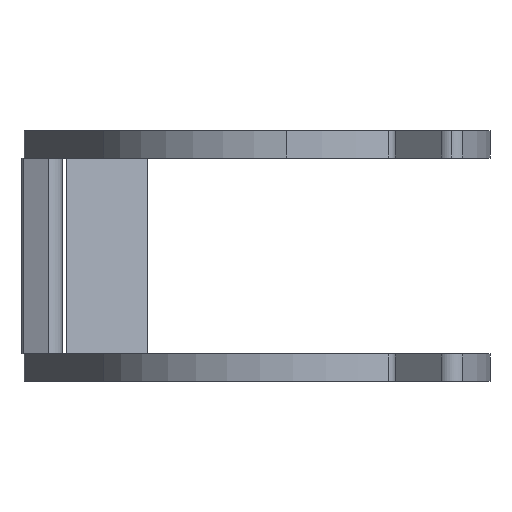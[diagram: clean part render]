
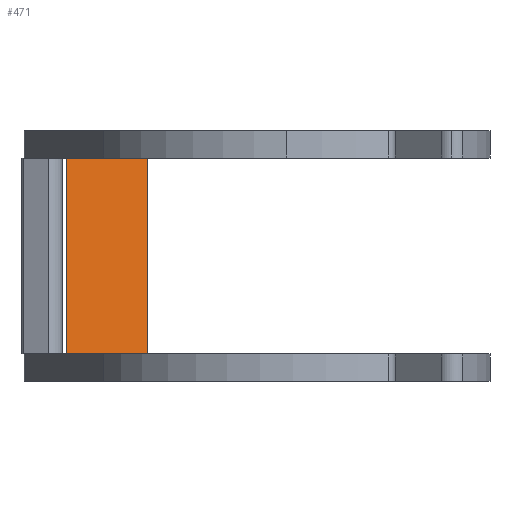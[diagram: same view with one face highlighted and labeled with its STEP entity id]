
A CAD part, left-side view. The second image highlights one B-rep face of the part: STEP entity #471.
In plain terms, the highlighted planar face has unit normal (-0.956, -0.292, 0).
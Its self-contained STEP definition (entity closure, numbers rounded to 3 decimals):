
#401 = LINE ( 'NONE', #6889, #6104 ) ;
#471 = ADVANCED_FACE ( 'NONE', ( #4999 ), #3157, .F. ) ;
#518 = VERTEX_POINT ( 'NONE', #4433 ) ;
#577 = ORIENTED_EDGE ( 'NONE', *, *, #5120, .T. ) ;
#604 = DIRECTION ( 'NONE',  ( -0.292, 0.956, 0. ) ) ;
#866 = ORIENTED_EDGE ( 'NONE', *, *, #1025, .T. ) ;
#1025 = EDGE_CURVE ( 'NONE', #3019, #518, #3514, .T. ) ;
#1259 = EDGE_CURVE ( 'NONE', #6435, #3303, #6900, .T. ) ;
#1303 = VECTOR ( 'NONE', #2569, 1000. ) ;
#1919 = CARTESIAN_POINT ( 'NONE',  ( 60.2, 65., 0. ) ) ;
#2262 = DIRECTION ( 'NONE',  ( -0.292, 0.956, 0. ) ) ;
#2391 = CARTESIAN_POINT ( 'NONE',  ( 67.471, 41.218, -57.8 ) ) ;
#2465 = DIRECTION ( 'NONE',  ( -0.292, 0.956, 0. ) ) ;
#2569 = DIRECTION ( 'NONE',  ( 0., 0., 1. ) ) ;
#2816 = DIRECTION ( 'NONE',  ( 0.956, 0.292, 0. ) ) ;
#3019 = VERTEX_POINT ( 'NONE', #5761 ) ;
#3157 = PLANE ( 'NONE',  #5633 ) ;
#3266 = LINE ( 'NONE', #5435, #5822 ) ;
#3303 = VERTEX_POINT ( 'NONE', #1919 ) ;
#3317 = EDGE_CURVE ( 'NONE', #3019, #6435, #401, .T. ) ;
#3514 = LINE ( 'NONE', #2391, #5918 ) ;
#3789 = EDGE_LOOP ( 'NONE', ( #577, #4715, #3921, #866 ) ) ;
#3921 = ORIENTED_EDGE ( 'NONE', *, *, #3317, .F. ) ;
#4433 = CARTESIAN_POINT ( 'NONE',  ( 67.471, 41.218, 0. ) ) ;
#4683 = CARTESIAN_POINT ( 'NONE',  ( 60.2, 65., -57.8 ) ) ;
#4715 = ORIENTED_EDGE ( 'NONE', *, *, #1259, .F. ) ;
#4963 = CARTESIAN_POINT ( 'NONE',  ( 60.2, 65., -57.8 ) ) ;
#4999 = FACE_OUTER_BOUND ( 'NONE', #3789, .T. ) ;
#5120 = EDGE_CURVE ( 'NONE', #518, #3303, #3266, .T. ) ;
#5435 = CARTESIAN_POINT ( 'NONE',  ( 60.2, 65., 0. ) ) ;
#5633 = AXIS2_PLACEMENT_3D ( 'NONE', #4963, #2816, #2262 ) ;
#5714 = DIRECTION ( 'NONE',  ( 0., 0., 1. ) ) ;
#5761 = CARTESIAN_POINT ( 'NONE',  ( 67.471, 41.218, -57.8 ) ) ;
#5822 = VECTOR ( 'NONE', #604, 1000. ) ;
#5918 = VECTOR ( 'NONE', #5714, 1000. ) ;
#6104 = VECTOR ( 'NONE', #2465, 1000. ) ;
#6228 = CARTESIAN_POINT ( 'NONE',  ( 60.2, 65., -57.8 ) ) ;
#6435 = VERTEX_POINT ( 'NONE', #4683 ) ;
#6889 = CARTESIAN_POINT ( 'NONE',  ( 60.2, 65., -57.8 ) ) ;
#6900 = LINE ( 'NONE', #6228, #1303 ) ;
